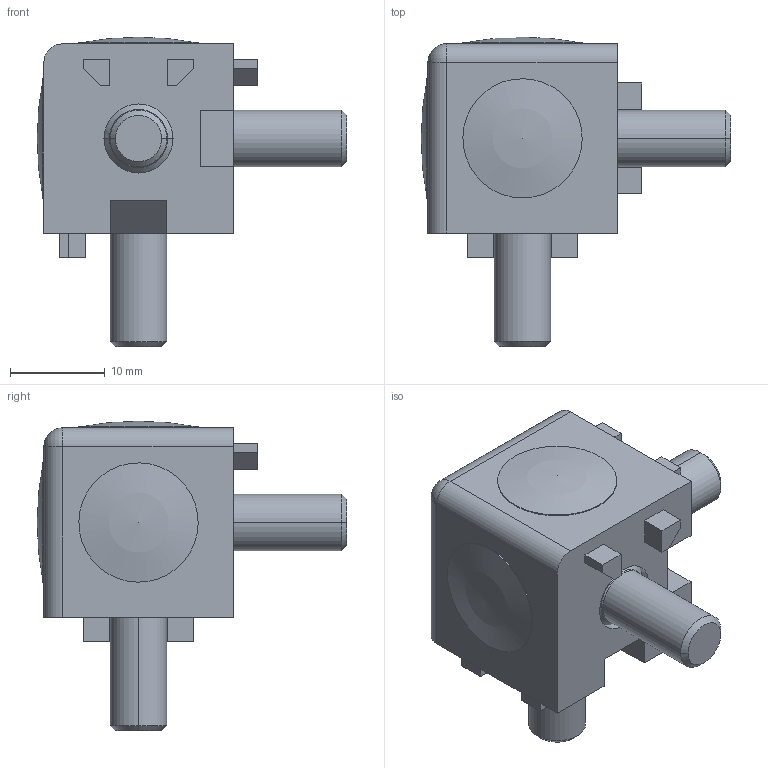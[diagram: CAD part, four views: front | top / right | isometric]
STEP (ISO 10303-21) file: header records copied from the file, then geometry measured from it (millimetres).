
FILE_DESCRIPTION(('FreeCAD Model'),'2;1');
FILE_NAME('Open CASCADE Shape Model','2021-05-04T11:17:39',('Author'),( ''),'Open CASCADE STEP processor 7.5','FreeCAD','Unknown');
FILE_SCHEMA(('AUTOMOTIVE_DESIGN { 1 0 10303 214 1 1 1 1 }'));
Length unit declared in the file: millimetre
Products named in the file (4): CUBE CONNECTOR 3D 20X20 ASSEMBLY; CUBE CONNECTOR 3D 20X20; CUBE CONNECTOR 3D 20X20 COVER CAP; socket countersunk head screw_iso_ISO 10642 - M6 x 16 --- 16N
Assembly tree (7 placements, depth 2):
  CUBE CONNECTOR 3D 20X20 ASSEMBLY
    CUBE CONNECTOR 3D 20X20
    CUBE CONNECTOR 3D 20X20 COVER CAP  x3
    socket countersunk head screw_iso_ISO 10642 - M6 x 16 --- 16N  x3
Bounding box: 32.7 x 32.7 x 32.7 mm (x, y, z)
Volume: 6334.6 mm3; surface area: 6044.8 mm2
Topology: 7 solids, 7 shells, 187 faces, 447 edges, 272 vertices
Faces by surface type: plane 99, cylinder 51, cone 24, sphere 7, torus 6
Entity records: 8354 total; most frequent: CARTESIAN_POINT 2517, DIRECTION 1067, LINE 677, VECTOR 677, ORIENTED_EDGE 564, PCURVE 564, DEFINITIONAL_REPRESENTATION 564, EDGE_CURVE 282
